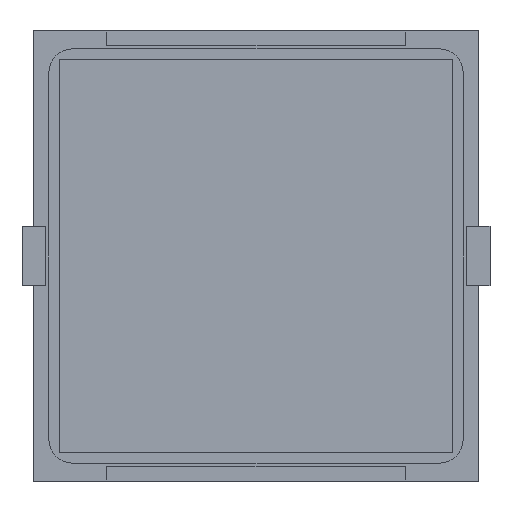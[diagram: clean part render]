
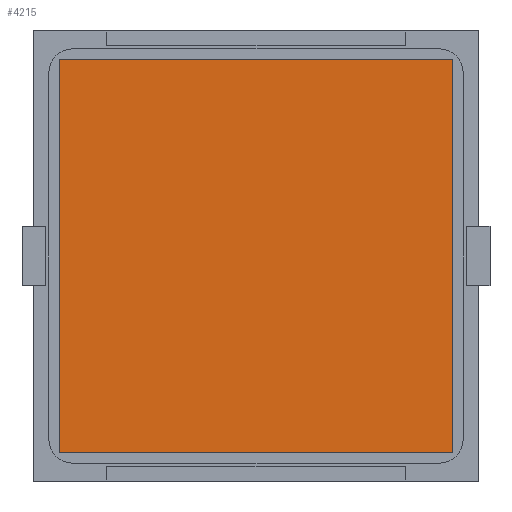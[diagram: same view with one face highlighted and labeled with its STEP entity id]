
A CAD part, front view. The second image highlights one B-rep face of the part: STEP entity #4215.
In plain terms, the highlighted planar face has unit normal (0, -1, 0).
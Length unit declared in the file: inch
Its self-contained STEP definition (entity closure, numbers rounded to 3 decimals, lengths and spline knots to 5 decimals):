
#37 = CARTESIAN_POINT ( 'NONE',  ( 0.64961, -0.005, -0.64961 ) ) ;
#513 = VERTEX_POINT ( 'NONE', #4090 ) ;
#1582 = VECTOR ( 'NONE', #13662, 39.37008 ) ;
#1595 = EDGE_CURVE ( 'NONE', #14920, #8629, #3913, .T. ) ;
#1879 = PLANE ( 'NONE',  #8938 ) ;
#1885 = CARTESIAN_POINT ( 'NONE',  ( 0.64961, -0.005, 0.64961 ) ) ;
#3498 = DIRECTION ( 'NONE',  ( 0., -1., 0. ) ) ;
#3688 = DIRECTION ( 'NONE',  ( 1., 0., 0. ) ) ;
#3871 = ORIENTED_EDGE ( 'NONE', *, *, #6950, .T. ) ;
#3913 = LINE ( 'NONE', #37, #8517 ) ;
#4090 = CARTESIAN_POINT ( 'NONE',  ( -0.64961, -0.005, 0.64961 ) ) ;
#4215 = ADVANCED_FACE ( 'NONE', ( #8100 ), #1879, .T. ) ;
#4314 = DIRECTION ( 'NONE',  ( -1., 0., 0. ) ) ;
#4463 = CARTESIAN_POINT ( 'NONE',  ( -0.64961, -0.005, -0.64961 ) ) ;
#4879 = VERTEX_POINT ( 'NONE', #1885 ) ;
#5939 = CARTESIAN_POINT ( 'NONE',  ( 0.64961, -0.005, 0.64961 ) ) ;
#6950 = EDGE_CURVE ( 'NONE', #4879, #513, #6955, .T. ) ;
#6955 = LINE ( 'NONE', #12031, #13509 ) ;
#7273 = DIRECTION ( 'NONE',  ( 0., 0., 1. ) ) ;
#7979 = CARTESIAN_POINT ( 'NONE',  ( 0.64961, -0.005, -0.64961 ) ) ;
#8100 = FACE_OUTER_BOUND ( 'NONE', #12034, .T. ) ;
#8517 = VECTOR ( 'NONE', #3688, 39.37008 ) ;
#8629 = VERTEX_POINT ( 'NONE', #12405 ) ;
#8938 = AXIS2_PLACEMENT_3D ( 'NONE', #5939, #3498, #7273 ) ;
#9220 = LINE ( 'NONE', #7979, #13714 ) ;
#9699 = LINE ( 'NONE', #4463, #1582 ) ;
#11268 = ORIENTED_EDGE ( 'NONE', *, *, #1595, .T. ) ;
#11281 = EDGE_CURVE ( 'NONE', #8629, #4879, #9220, .T. ) ;
#12031 = CARTESIAN_POINT ( 'NONE',  ( 0.64961, -0.005, 0.64961 ) ) ;
#12034 = EDGE_LOOP ( 'NONE', ( #14745, #3871, #14833, #11268 ) ) ;
#12405 = CARTESIAN_POINT ( 'NONE',  ( 0.64961, -0.005, -0.64961 ) ) ;
#12950 = DIRECTION ( 'NONE',  ( 0., 0., 1. ) ) ;
#13509 = VECTOR ( 'NONE', #4314, 39.37008 ) ;
#13662 = DIRECTION ( 'NONE',  ( 0., 0., -1. ) ) ;
#13714 = VECTOR ( 'NONE', #12950, 39.37008 ) ;
#14183 = EDGE_CURVE ( 'NONE', #513, #14920, #9699, .T. ) ;
#14745 = ORIENTED_EDGE ( 'NONE', *, *, #11281, .T. ) ;
#14833 = ORIENTED_EDGE ( 'NONE', *, *, #14183, .T. ) ;
#14920 = VERTEX_POINT ( 'NONE', #15200 ) ;
#15200 = CARTESIAN_POINT ( 'NONE',  ( -0.64961, -0.005, -0.64961 ) ) ;
